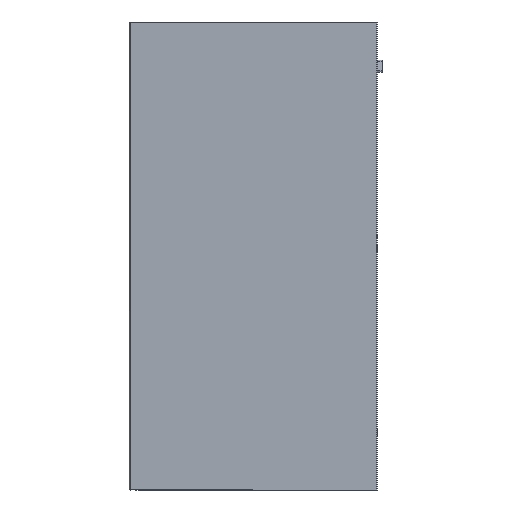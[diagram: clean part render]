
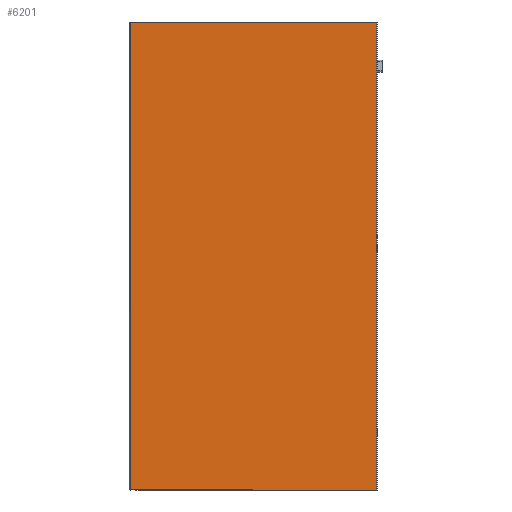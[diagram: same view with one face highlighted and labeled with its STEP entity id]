
A CAD part, left-side view. The second image highlights one B-rep face of the part: STEP entity #6201.
In plain terms, the highlighted planar face has unit normal (-1, 0, 0).
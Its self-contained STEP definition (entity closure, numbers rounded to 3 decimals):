
#251 = CARTESIAN_POINT ( 'NONE',  ( -12.5, 55.8, -512.455 ) ) ;
#370 = ORIENTED_EDGE ( 'NONE', *, *, #10776, .T. ) ;
#521 = LINE ( 'NONE', #11501, #5513 ) ;
#694 = ORIENTED_EDGE ( 'NONE', *, *, #12061, .F. ) ;
#855 = VECTOR ( 'NONE', #2993, 1000. ) ;
#1038 = ORIENTED_EDGE ( 'NONE', *, *, #3999, .F. ) ;
#1371 = CARTESIAN_POINT ( 'NONE',  ( -12.5, -30.66, -449. ) ) ;
#1686 = CARTESIAN_POINT ( 'NONE',  ( -12.5, 55.8, 0. ) ) ;
#1789 = EDGE_LOOP ( 'NONE', ( #1797, #1038, #694, #370 ) ) ;
#1797 = ORIENTED_EDGE ( 'NONE', *, *, #9288, .T. ) ;
#2151 = CARTESIAN_POINT ( 'NONE',  ( -12.5, -30.66, -512.455 ) ) ;
#2237 = PLANE ( 'NONE',  #6635 ) ;
#2326 = DIRECTION ( 'NONE',  ( -1., 0., 0. ) ) ;
#2633 = VECTOR ( 'NONE', #3106, 1000. ) ;
#2993 = DIRECTION ( 'NONE',  ( 0., -1., 0. ) ) ;
#3106 = DIRECTION ( 'NONE',  ( 0., 0., 1. ) ) ;
#3999 = EDGE_CURVE ( 'NONE', #7363, #11749, #9842, .T. ) ;
#4304 = VERTEX_POINT ( 'NONE', #11523 ) ;
#4708 = DIRECTION ( 'NONE',  ( 0., -1., 0. ) ) ;
#5170 = FACE_OUTER_BOUND ( 'NONE', #1789, .T. ) ;
#5513 = VECTOR ( 'NONE', #4708, 1000. ) ;
#6201 = ADVANCED_FACE ( 'NONE', ( #5170 ), #2237, .T. ) ;
#6635 = AXIS2_PLACEMENT_3D ( 'NONE', #251, #2326, #9254 ) ;
#7363 = VERTEX_POINT ( 'NONE', #10260 ) ;
#7840 = DIRECTION ( 'NONE',  ( 0., 0., 1. ) ) ;
#8320 = LINE ( 'NONE', #11693, #10535 ) ;
#9254 = DIRECTION ( 'NONE',  ( 0., 1., 0. ) ) ;
#9288 = EDGE_CURVE ( 'NONE', #10545, #11749, #10462, .T. ) ;
#9842 = LINE ( 'NONE', #1686, #855 ) ;
#10260 = CARTESIAN_POINT ( 'NONE',  ( -12.5, 205.8, 0. ) ) ;
#10462 = LINE ( 'NONE', #2151, #2633 ) ;
#10535 = VECTOR ( 'NONE', #7840, 1000. ) ;
#10545 = VERTEX_POINT ( 'NONE', #1371 ) ;
#10776 = EDGE_CURVE ( 'NONE', #4304, #10545, #521, .T. ) ;
#11501 = CARTESIAN_POINT ( 'NONE',  ( -12.5, 56.8, -449. ) ) ;
#11523 = CARTESIAN_POINT ( 'NONE',  ( -12.5, 205.8, -449. ) ) ;
#11693 = CARTESIAN_POINT ( 'NONE',  ( -12.5, 205.8, -512.455 ) ) ;
#11749 = VERTEX_POINT ( 'NONE', #12117 ) ;
#12061 = EDGE_CURVE ( 'NONE', #4304, #7363, #8320, .T. ) ;
#12117 = CARTESIAN_POINT ( 'NONE',  ( -12.5, -30.66, 0. ) ) ;
